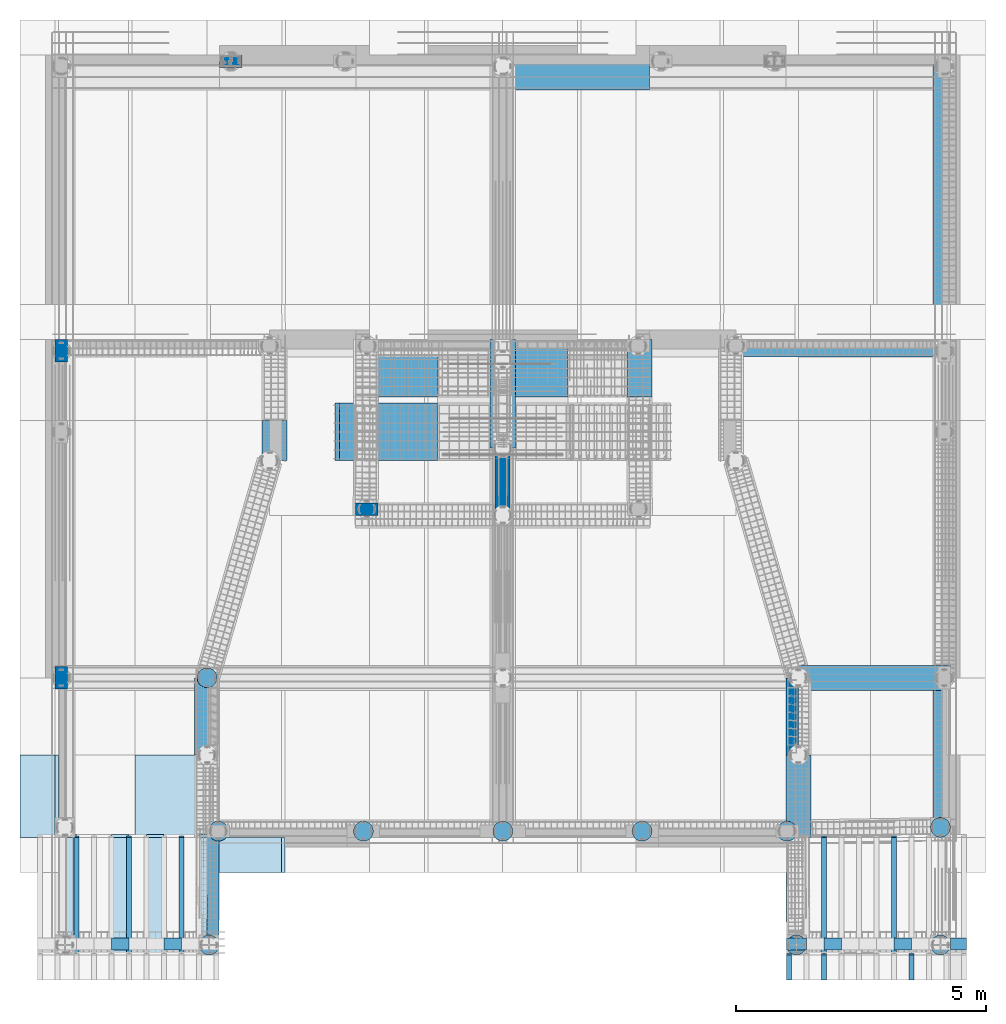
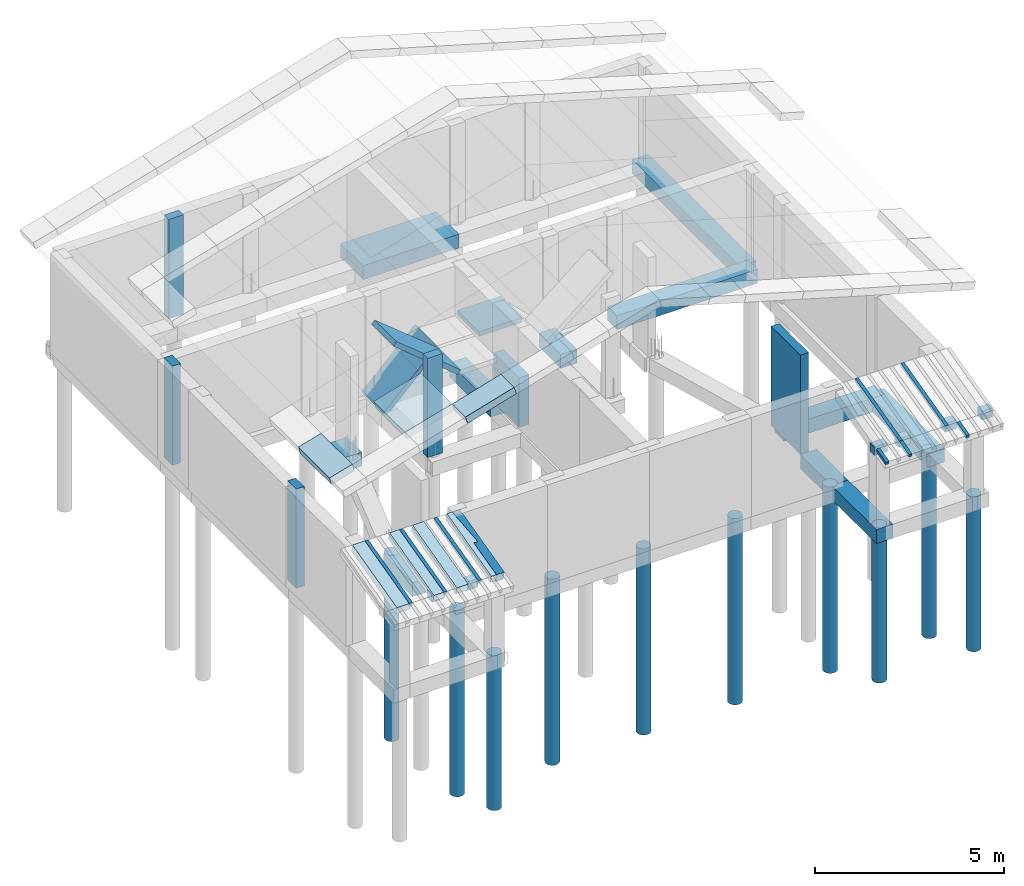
# One storey, part 1 of 13: 29 beams, 10 piles, 7 slabs, 6 columns.
"""IFC4 building model written with IfcOpenShell, lengths in metres."""

from ifc_helpers import new_model, si_unit, frame, frame_2d, origin_with_axes, origin_2d_with_axis, place, context, project, spatial, polyline, rectangle, outline, extrude, material, layer, layer_set, layer_usage, material_profile, profile_set, profile_usage, type_object, element, save


model = new_model("IFC4")

# Units and contexts
model_context = context("Model", 3, precision=1e-05, world=origin_with_axes())
ifc_project = project(units=[si_unit("LENGTHUNIT", "METRE"), si_unit("AREAUNIT", "SQUARE_METRE"), si_unit("VOLUMEUNIT", "CUBIC_METRE"), si_unit("MASSUNIT", "GRAM", prefix="KILO"), si_unit("TIMEUNIT", "SECOND"), si_unit("PLANEANGLEUNIT", "RADIAN"), si_unit("SOLIDANGLEUNIT", "STERADIAN"), si_unit("THERMODYNAMICTEMPERATUREUNIT", "DEGREE_CELSIUS")], contexts=[model_context])

# Site, building, storey
placement_1 = place(None, origin_with_axes())
site = spatial("IfcSite", under=ifc_project, at=placement_1, Name="Italia", CompositionType="ELEMENT")
building = spatial("IfcBuilding", under=site, at=placement_1, Name="Villa", CompositionType="ELEMENT")
storey = spatial("IfcBuildingStorey", under=building, at=placement_1, Name="Storey 0", CompositionType="ELEMENT", Elevation=0.0)

# Piles
placement_2 = place(placement_1, origin_with_axes())
pile_1_placement = place(placement_2, origin_with_axes())
element("IfcPile", 1, at=pile_1_placement, inside=storey, Name="1", PredefinedType="SUPPORT", context=model_context, shape_type="SweptSolid", body=[
    extrude(outline(polyline([(0.0, 0.0), (-0.0618034, 0.00978875), (-0.117557, 0.0381966), (-0.161803, 0.082443), (-0.190211, 0.138197), (-0.2, 0.2), (-0.190211, 0.261803), (-0.161803, 0.317557), (-0.117557, 0.361804), (-0.0618034, 0.390211), (0.0, 0.4), (0.0618034, 0.390211), (0.117557, 0.361804), (0.161803, 0.317557), (0.190211, 0.261803), (0.2, 0.2), (0.190211, 0.138197), (0.161803, 0.082443), (0.117557, 0.0381966), (0.0618034, 0.00978875), (0.0, 0.0)])), frame((3.42, 0.2, -5.0), z_axis=(0.0, 0.0, 1.0), x_axis=(0.0, 1.0, 0.0)), (0.0, 0.0, 1.0), 5.0),
])
pile_2_placement = place(placement_2, origin_with_axes())
element("IfcPile", 2, at=pile_2_placement, inside=storey, Name="1", PredefinedType="SUPPORT", context=model_context, shape_type="SweptSolid", body=[
    extrude(outline(polyline([(0.0, 0.0), (-0.0618033, 0.00978875), (-0.117557, 0.0381966), (-0.161803, 0.082443), (-0.190211, 0.138197), (-0.2, 0.2), (-0.190211, 0.261803), (-0.161803, 0.317557), (-0.117557, 0.361804), (-0.0618033, 0.390211), (0.0, 0.4), (0.0618033, 0.390211), (0.117557, 0.361804), (0.161803, 0.317557), (0.190211, 0.261803), (0.2, 0.2), (0.190211, 0.138197), (0.161803, 0.082443), (0.117557, 0.0381966), (0.0618033, 0.00978875), (0.0, 0.0)])), frame((3.605, 2.475, -6.0), z_axis=(0.0, 0.0, 1.0), x_axis=(0.0, 1.0, 0.0)), (0.0, 0.0, 1.0), 6.0),
])
pile_3_placement = place(placement_2, origin_with_axes())
element("IfcPile", 3, at=pile_3_placement, inside=storey, Name="1", PredefinedType="SUPPORT", context=model_context, shape_type="SweptSolid", body=[
    extrude(outline(polyline([(0.0, 0.0), (-0.0618033, 0.00978851), (-0.117557, 0.0381966), (-0.161803, 0.0824428), (-0.190211, 0.138196), (-0.2, 0.2), (-0.190211, 0.261803), (-0.161803, 0.317557), (-0.117557, 0.361803), (-0.0618033, 0.390211), (0.0, 0.4), (0.0618033, 0.390211), (0.117557, 0.361803), (0.161803, 0.317557), (0.190211, 0.261803), (0.2, 0.2), (0.190211, 0.138196), (0.161803, 0.0824428), (0.117557, 0.0381966), (0.0618033, 0.00978851), (0.0, 0.0)])), frame((6.505, 2.475, -6.0), z_axis=(0.0, 0.0, 1.0), x_axis=(0.0, 1.0, 0.0)), (0.0, 0.0, 1.0), 6.0),
])
pile_4_placement = place(placement_2, origin_with_axes())
element("IfcPile", 4, at=pile_4_placement, inside=storey, Name="1", PredefinedType="SUPPORT", context=model_context, shape_type="SweptSolid", body=[
    extrude(outline(polyline([(0.0, 0.0), (-0.0618033, 0.00978851), (-0.117557, 0.0381966), (-0.161803, 0.0824423), (-0.190211, 0.138196), (-0.2, 0.2), (-0.190211, 0.261804), (-0.161803, 0.317556), (-0.117557, 0.361803), (-0.0618033, 0.390211), (0.0, 0.4), (0.0618033, 0.390211), (0.117557, 0.361803), (0.161803, 0.317556), (0.190211, 0.261804), (0.2, 0.2), (0.190211, 0.138196), (0.161803, 0.0824423), (0.117557, 0.0381966), (0.0618033, 0.00978851), (0.0, 0.0)])), frame((9.29, 2.475, -6.0), z_axis=(0.0, 0.0, 1.0), x_axis=(0.0, 1.0, 0.0)), (0.0, 0.0, 1.0), 6.0),
])
pile_5_placement = place(placement_2, origin_with_axes())
element("IfcPile", 5, at=pile_5_placement, inside=storey, Name="1", PredefinedType="SUPPORT", context=model_context, shape_type="SweptSolid", body=[
    extrude(outline(polyline([(0.0, 0.0), (-0.0618033, 0.00978875), (-0.117557, 0.0381966), (-0.161803, 0.082443), (-0.190211, 0.138197), (-0.2, 0.2), (-0.190211, 0.261803), (-0.161803, 0.317557), (-0.117557, 0.361804), (-0.0618033, 0.390211), (0.0, 0.4), (0.0618033, 0.390211), (0.117557, 0.361804), (0.161803, 0.317557), (0.190211, 0.261803), (0.2, 0.2), (0.190211, 0.138197), (0.161803, 0.082443), (0.117557, 0.0381966), (0.0618033, 0.00978875), (0.0, 0.0)])), frame((3.38, 5.54, -6.0), z_axis=(0.0, 0.0, 1.0), x_axis=(0.0, 1.0, 0.0)), (0.0, 0.0, 1.0), 6.0),
])
pile_6_placement = place(placement_2, origin_with_axes())
element("IfcPile", 6, at=pile_6_placement, inside=storey, Name="1", PredefinedType="SUPPORT", context=model_context, shape_type="SweptSolid", body=[
    extrude(outline(polyline([(0.0, 0.0), (-0.0618033, 0.00978851), (-0.117557, 0.0381966), (-0.161803, 0.0824432), (-0.190211, 0.138197), (-0.2, 0.200001), (-0.190211, 0.261805), (-0.161803, 0.317558), (-0.117557, 0.361805), (-0.0618033, 0.390213), (0.0, 0.400002), (0.0618033, 0.390213), (0.117557, 0.361805), (0.161803, 0.317558), (0.190211, 0.261805), (0.2, 0.200001), (0.190211, 0.138197), (0.161803, 0.0824432), (0.117557, 0.0381966), (0.0618033, 0.00978851), (0.0, 0.0)])), frame((18.04, 2.55, -6.0), z_axis=(0.0, 0.0, 1.0), x_axis=(0.0, 1.0, 0.0)), (0.0, 0.0, 1.0), 6.0),
])
pile_7_placement = place(placement_2, origin_with_axes())
element("IfcPile", 7, at=pile_7_placement, inside=storey, Name="1", PredefinedType="SUPPORT", context=model_context, shape_type="SweptSolid", body=[
    extrude(outline(polyline([(0.0, 0.0), (-0.0618034, 0.00978851), (-0.117557, 0.0381966), (-0.161803, 0.0824432), (-0.190211, 0.138197), (-0.2, 0.200001), (-0.190211, 0.261805), (-0.161803, 0.317558), (-0.117557, 0.361805), (-0.0618034, 0.390213), (0.0, 0.400002), (0.0618034, 0.390213), (0.117557, 0.361805), (0.161803, 0.317558), (0.190211, 0.261805), (0.2, 0.200001), (0.190211, 0.138197), (0.161803, 0.0824432), (0.117557, 0.0381966), (0.0618034, 0.00978851), (0.0, 0.0)])), frame((18.04, 0.2, -5.0), z_axis=(0.0, 0.0, 1.0), x_axis=(0.0, 1.0, 0.0)), (0.0, 0.0, 1.0), 5.0),
])
pile_8_placement = place(placement_2, origin_with_axes())
element("IfcPile", 8, at=pile_8_placement, inside=storey, Name="1", PredefinedType="SUPPORT", context=model_context, shape_type="SweptSolid", body=[
    extrude(outline(polyline([(0.0, 0.0), (-0.0618034, 0.00978851), (-0.117557, 0.0381966), (-0.161803, 0.0824432), (-0.190211, 0.138196), (-0.2, 0.2), (-0.190211, 0.261804), (-0.161803, 0.317556), (-0.117557, 0.361803), (-0.0618034, 0.390211), (0.0, 0.4), (0.0618034, 0.390211), (0.117557, 0.361803), (0.161803, 0.317556), (0.190211, 0.261804), (0.2, 0.2), (0.190211, 0.138196), (0.161803, 0.0824423), (0.117557, 0.0381966), (0.0618034, 0.00978851), (0.0, 0.0)])), frame((15.16, 0.2, -5.0), z_axis=(0.0, 0.0, 1.0), x_axis=(0.0, 1.0, 0.0)), (0.0, 0.0, 1.0), 5.0),
])
pile_9_placement = place(placement_2, origin_with_axes())
element("IfcPile", 9, at=pile_9_placement, inside=storey, Name="1", PredefinedType="SUPPORT", context=model_context, shape_type="SweptSolid", body=[
    extrude(outline(polyline([(0.0, 0.0), (-0.0618033, 0.00978851), (-0.117557, 0.0381966), (-0.161803, 0.0824423), (-0.190211, 0.138196), (-0.2, 0.2), (-0.190211, 0.261804), (-0.161803, 0.317556), (-0.117557, 0.361803), (-0.0618033, 0.390211), (0.0, 0.4), (0.0618033, 0.390211), (0.117557, 0.361803), (0.161803, 0.317556), (0.190211, 0.261804), (0.2, 0.2), (0.190211, 0.138196), (0.161803, 0.0824423), (0.117557, 0.0381966), (0.0618033, 0.00978851), (0.0, 0.0)])), frame((14.975, 2.475, -6.0), z_axis=(0.0, 0.0, 1.0), x_axis=(0.0, 1.0, 0.0)), (0.0, 0.0, 1.0), 6.0),
])
pile_10_placement = place(placement_2, origin_with_axes())
element("IfcPile", 10, at=pile_10_placement, inside=storey, Name="1", PredefinedType="SUPPORT", context=model_context, shape_type="SweptSolid", body=[
    extrude(outline(polyline([(0.0, 0.0), (-0.0618033, 0.00978851), (-0.117557, 0.0381966), (-0.161803, 0.0824423), (-0.190211, 0.138196), (-0.2, 0.2), (-0.190211, 0.261804), (-0.161803, 0.317556), (-0.117557, 0.361803), (-0.0618033, 0.390211), (0.0, 0.4), (0.0618033, 0.390211), (0.117557, 0.361803), (0.161803, 0.317556), (0.190211, 0.261804), (0.2, 0.2), (0.190211, 0.138196), (0.161803, 0.0824423), (0.117557, 0.0381966), (0.0618033, 0.00978851), (0.0, 0.0)])), frame((12.075, 2.475, -6.0), z_axis=(0.0, 0.0, 1.0), x_axis=(0.0, 1.0, 0.0)), (0.0, 0.0, 1.0), 6.0),
])

# Columns
ifc_material_1 = material(Name="Calcestruzzo classe C28/35", Category="Calcestruzzo classe C28/35")
ifc_material_profile_1 = material_profile(ifc_material_1, rectangle(XDim=0.4, YDim=0.4, at=origin_2d_with_axis()), Name="4 PILASTRO LOGGIATO 40X40")
ifc_profile_set_1 = profile_set([ifc_material_profile_1])
ifc_profile_usage_1 = profile_usage(ifc_profile_set_1, cardinal=2)
column_type_1 = type_object("IfcColumnType", Name="2 PILASTRO 45X25", PredefinedType="COLUMN", material=ifc_profile_usage_1)
column_1_placement = place(placement_2, origin_with_axes())
element("IfcColumn", 11, at=column_1_placement, inside=storey, type_object=column_type_1, Name="14", context=model_context, shape_type="SweptSolid", body=[
    extrude(rectangle(XDim=0.25, YDim=0.45, at=frame_2d((0.0, 0.0), x_axis=(0.0, 1.0))), frame((0.265, 5.54, 0.0), z_axis=(0.0, 0.0, 1.0), x_axis=(0.0, 1.0, 0.0)), (0.0, 0.0, 1.0), 3.2),
])
ifc_profile_usage_2 = profile_usage(ifc_profile_set_1, cardinal=1)
column_type_2 = type_object("IfcColumnType", Name="1 PILASTRO 25X45", PredefinedType="COLUMN", material=ifc_profile_usage_2)
column_2_placement = place(placement_2, origin_with_axes())
element("IfcColumn", 12, at=column_2_placement, inside=storey, type_object=column_type_2, Name="17", context=model_context, shape_type="SweptSolid", body=[
    extrude(rectangle(XDim=0.25, YDim=0.45, at=origin_2d_with_axis()), frame((6.375, 8.915, 0.0), z_axis=(0.0, 0.0, 1.0), x_axis=(0.0, 1.0, 0.0)), (0.0, 0.0, 1.0), 3.2),
])
ifc_profile_usage_3 = profile_usage(ifc_profile_set_1, cardinal=3)
column_type_3 = type_object("IfcColumnType", Name="2 PILASTRO 45X25", PredefinedType="COLUMN", material=ifc_profile_usage_3)
column_3_placement = place(placement_2, origin_with_axes())
element("IfcColumn", 13, at=column_3_placement, inside=storey, type_object=column_type_3, Name="21", context=model_context, shape_type="SweptSolid", body=[
    extrude(rectangle(XDim=0.25, YDim=0.45, at=frame_2d((0.0, 0.0), x_axis=(0.0, 1.0))), frame((0.265, 12.075, 0.0), z_axis=(0.0, 0.0, 1.0), x_axis=(0.0, 1.0, 0.0)), (0.0, 0.0, 1.0), 3.2),
])
ifc_profile_usage_4 = profile_usage(ifc_profile_set_1, cardinal=3)
column_type_4 = type_object("IfcColumnType", Name="1 PILASTRO 25X45", PredefinedType="COLUMN", material=ifc_profile_usage_4)
column_4_placement = place(placement_2, origin_with_axes())
element("IfcColumn", 14, at=column_4_placement, inside=storey, type_object=column_type_4, Name="29", context=model_context, shape_type="SweptSolid", body=[
    extrude(rectangle(XDim=0.25, YDim=0.45, at=origin_2d_with_axis()), frame((3.655, 17.865, 0.0), z_axis=(0.0, 0.0, 1.0), x_axis=(0.0, 1.0, 0.0)), (0.0, 0.0, 1.0), 3.2),
])
ifc_material_2 = material(Name="Calcestruzzo classe C28/35", Category="Calcestruzzo classe C28/35")
ifc_layer_1 = layer(ifc_material_2, 0.25)
ifc_layer_set_1 = layer_set([ifc_layer_1])
ifc_layer_usage_1 = layer_usage(ifc_layer_set_1, "AXIS2", "POSITIVE", -0.25)
column_type_5 = type_object("IfcColumnType", Name="1 muro pilastro", PredefinedType="COLUMN")
column_5_placement = place(placement_2, origin_with_axes())
element("IfcColumn", 15, at=column_5_placement, inside=storey, type_object=column_type_5, material=ifc_layer_usage_1, Name="38", context=model_context, shape_type="SweptSolid", body=[
    extrude(rectangle(XDim=1.54, YDim=0.25, at=origin_2d_with_axis()), frame((14.875, 4.77, 0.0), z_axis=(0.0, 0.0, 1.0), x_axis=(0.0, 1.0, 0.0)), (0.0, 0.0, 1.0), 3.2),
])
ifc_material_3 = material(Name="Calcestruzzo classe C28/35", Category="Calcestruzzo classe C28/35")
ifc_layer_2 = layer(ifc_material_3, 0.3)
ifc_layer_set_2 = layer_set([ifc_layer_2])
ifc_layer_usage_2 = layer_usage(ifc_layer_set_2, "AXIS2", "POSITIVE", -0.3)
column_type_6 = type_object("IfcColumnType", Name="3 muro pilastro 30 centrale", PredefinedType="COLUMN")
column_6_placement = place(placement_2, origin_with_axes())
element("IfcColumn", 16, at=column_6_placement, inside=storey, type_object=column_type_6, material=ifc_layer_usage_2, Name="37", context=model_context, shape_type="SweptSolid", body=[
    extrude(rectangle(XDim=1.34, YDim=0.3, at=origin_2d_with_axis()), frame((9.09, 9.46, 0.0), z_axis=(0.0, 0.0, 1.0), x_axis=(0.0, 1.0, 0.0)), (0.0, 0.0, 1.0), 1.6),
])

# Beams
ifc_profile_usage_5 = profile_usage(ifc_profile_set_1, cardinal=2)
beam_type_1 = type_object("IfcBeamType", Name="11 TRV SUI PALI", PredefinedType="BEAM", material=ifc_profile_usage_5)
beam_1_placement = place(placement_2, origin_with_axes())
element("IfcBeam", 17, at=beam_1_placement, inside=storey, type_object=beam_type_1, Name="4005", context=model_context, shape_type="SweptSolid", body=[
    extrude(rectangle(XDim=0.45, YDim=0.5, at=frame_2d((0.0, 0.0), x_axis=(0.0, 1.0))), frame((15.0, 5.54, -0.225), z_axis=(1.0, 0.0, 0.0), x_axis=(0.0, 1.0, 0.0)), (0.0, 0.0, 1.0), 3.04),
])
ifc_profile_usage_6 = profile_usage(ifc_profile_set_1, cardinal=2)
beam_type_2 = type_object("IfcBeamType", Name="11 TRV SUI PALI", PredefinedType="BEAM", material=ifc_profile_usage_6)
beam_2_placement = place(placement_2, origin_with_axes())
element("IfcBeam", 18, at=beam_2_placement, inside=storey, type_object=beam_type_2, Name="4049", context=model_context, shape_type="SweptSolid", body=[
    extrude(rectangle(XDim=0.45, YDim=0.5, at=frame_2d((0.0, 0.0), x_axis=(0.0, 1.0))), frame((3.18, 4.0, -0.225), z_axis=(0.0, 1.0, 0.0), x_axis=(-1.0, 0.0, 0.0)), (0.0, 0.0, 1.0), 1.54),
])
ifc_profile_usage_7 = profile_usage(ifc_profile_set_1, cardinal=3)
beam_type_3 = type_object("IfcBeamType", Name="11 TRV SUI PALI", PredefinedType="BEAM", material=ifc_profile_usage_7)
beam_3_placement = place(placement_2, origin_with_axes())
element("IfcBeam", 19, at=beam_3_placement, inside=storey, type_object=beam_type_3, Name="4024", context=model_context, shape_type="SweptSolid", body=[
    extrude(rectangle(XDim=0.45, YDim=0.5, at=frame_2d((0.0, 0.0), x_axis=(0.0, 1.0))), frame((4.53, 9.88, -0.225), z_axis=(0.0, 1.0, 0.0), x_axis=(-1.0, 0.0, 0.0)), (0.0, 0.0, 1.0), 0.8),
])
ifc_profile_usage_8 = profile_usage(ifc_profile_set_1, cardinal=2)
beam_type_4 = type_object("IfcBeamType", Name="11 TRV SUI PALI", PredefinedType="BEAM", material=ifc_profile_usage_8)
beam_4_placement = place(placement_2, origin_with_axes())
element("IfcBeam", 20, at=beam_4_placement, inside=storey, type_object=beam_type_4, Name="4030", context=model_context, shape_type="SweptSolid", body=[
    extrude(rectangle(XDim=0.45, YDim=0.5, at=frame_2d((0.0, 0.0), x_axis=(0.0, 1.0))), frame((9.09, 10.13, -0.225), z_axis=(0.0, 1.0, 0.0), x_axis=(-1.0, 0.0, 0.0)), (0.0, 0.0, 1.0), 2.17),
])
ifc_material_4 = material(Name="Legname a media elasticità", Category="Legname a media elasticità")
ifc_material_profile_2 = material_profile(ifc_material_4, rectangle(XDim=0.24, YDim=0.28, at=origin_2d_with_axis()), Name="6 TRAVE LEGNO 24X28")
ifc_profile_set_2 = profile_set([ifc_material_profile_2])
ifc_profile_usage_9 = profile_usage(ifc_profile_set_2)
beam_type_5 = type_object("IfcBeamType", Name="6 TRAVE LEGNO 24X28", PredefinedType="BEAM", material=ifc_profile_usage_9)
beam_5_placement = place(placement_2, origin_with_axes())
element("IfcBeam", 21, at=beam_5_placement, inside=storey, type_object=beam_type_5, Name="1049", context=model_context, shape_type="SweptSolid", body=[
    extrude(rectangle(XDim=0.24, YDim=0.28, at=origin_2d_with_axis()), frame((3.29654, 0.0334927, 2.4672), z_axis=(-3.0963437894e-05, 0.969527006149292, 0.244984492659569), x_axis=(-1.0, -3.1936644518e-05, 0.0)), (0.0, 0.0, 1.0), 2.4255),
])
ifc_profile_usage_10 = profile_usage(ifc_profile_set_1, cardinal=1)
beam_type_6 = type_object("IfcBeamType", Name="22 Scala", PredefinedType="BEAM", material=ifc_profile_usage_10)
beam_6_placement = place(placement_2, origin_with_axes())
element("IfcBeam", 22, at=beam_6_placement, inside=storey, type_object=beam_type_6, Name="4068", context=model_context, shape_type="SweptSolid", body=[
    extrude(rectangle(XDim=0.15, YDim=1.15, at=frame_2d((0.0, 0.0), x_axis=(0.0, 1.0))), frame((10.39, 11.725, 1.525), z_axis=(-1.0, 0.0, 0.0), x_axis=(0.0, -1.0, 0.0)), (0.0, 0.0, 1.0), 1.3),
])
ifc_profile_usage_11 = profile_usage(ifc_profile_set_2, cardinal=1)
beam_type_7 = type_object("IfcBeamType", Name="9 TRAVE LEGNO 24X28 COPERTURA", PredefinedType="BEAM", material=ifc_profile_usage_11)
beam_7_placement = place(placement_2, origin_with_axes())
element("IfcBeam", 23, at=beam_7_placement, inside=storey, type_object=beam_type_7, Name="4001", context=model_context, shape_type="SweptSolid", body=[
    extrude(rectangle(XDim=0.24, YDim=0.28, at=origin_2d_with_axis()), frame((1.27, 0.22, 2.46), z_axis=(1.0, 0.0, 0.0), x_axis=(0.0, 1.0, 0.0)), (0.0, 0.0, 1.0), 0.35),
])
ifc_profile_usage_12 = profile_usage(ifc_profile_set_2, cardinal=1)
beam_type_8 = type_object("IfcBeamType", Name="9 TRAVE LEGNO 24X28 COPERTURA", PredefinedType="BEAM", material=ifc_profile_usage_12)
beam_8_placement = place(placement_2, origin_with_axes())
element("IfcBeam", 24, at=beam_8_placement, inside=storey, type_object=beam_type_8, Name="4001", context=model_context, shape_type="SweptSolid", body=[
    extrude(rectangle(XDim=0.24, YDim=0.28, at=origin_2d_with_axis()), frame((2.32, 0.22, 2.46), z_axis=(1.0, 0.0, 0.0), x_axis=(0.0, 1.0, 0.0)), (0.0, 0.0, 1.0), 0.35),
])
ifc_profile_usage_13 = profile_usage(ifc_profile_set_2, cardinal=2)
beam_type_9 = type_object("IfcBeamType", Name="8 CORRENTE 10X10", PredefinedType="BEAM", material=ifc_profile_usage_13)
beam_9_placement = place(placement_2, origin_with_axes())
element("IfcBeam", 25, at=beam_9_placement, inside=storey, type_object=beam_type_9, Name="1014", context=model_context, shape_type="SweptSolid", body=[
    extrude(rectangle(XDim=0.1, YDim=0.1, at=origin_2d_with_axis()), frame((0.57, 0.0123692, 2.55155), z_axis=(0.0, 0.968917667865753, 0.247383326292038), x_axis=(-1.0, 0.0, 0.0)), (0.0, 0.0, 1.0), 2.42539),
])
ifc_profile_usage_14 = profile_usage(ifc_profile_set_2, cardinal=2)
beam_type_10 = type_object("IfcBeamType", Name="8 CORRENTE 10X10", PredefinedType="BEAM", material=ifc_profile_usage_14)
beam_10_placement = place(placement_2, origin_with_axes())
element("IfcBeam", 26, at=beam_10_placement, inside=storey, type_object=beam_type_10, Name="1017", context=model_context, shape_type="SweptSolid", body=[
    extrude(rectangle(XDim=0.1, YDim=0.1, at=origin_2d_with_axis()), frame((1.62, 0.0123692, 2.55155), z_axis=(0.0, 0.968917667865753, 0.247383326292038), x_axis=(-1.0, 0.0, 0.0)), (0.0, 0.0, 1.0), 2.42539),
])
ifc_profile_usage_15 = profile_usage(ifc_profile_set_2, cardinal=2)
beam_type_11 = type_object("IfcBeamType", Name="8 CORRENTE 10X10", PredefinedType="BEAM", material=ifc_profile_usage_15)
beam_11_placement = place(placement_2, origin_with_axes())
element("IfcBeam", 27, at=beam_11_placement, inside=storey, type_object=beam_type_11, Name="1021", context=model_context, shape_type="SweptSolid", body=[
    extrude(rectangle(XDim=0.1, YDim=0.1, at=origin_2d_with_axis()), frame((2.67, 0.0123692, 2.55155), z_axis=(0.0, 0.968917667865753, 0.247383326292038), x_axis=(-1.0, 0.0, 0.0)), (0.0, 0.0, 1.0), 2.42539),
])
ifc_profile_usage_16 = profile_usage(ifc_profile_set_2, cardinal=3)
beam_type_12 = type_object("IfcBeamType", Name="9 TRAVE LEGNO 24X28 COPERTURA", PredefinedType="BEAM", material=ifc_profile_usage_16)
beam_12_placement = place(placement_2, origin_with_axes())
element("IfcBeam", 28, at=beam_12_placement, inside=storey, type_object=beam_type_12, Name="4175", context=model_context, shape_type="SweptSolid", body=[
    extrude(rectangle(XDim=0.24, YDim=0.28, at=origin_2d_with_axis()), frame((17.26, 0.22, 2.46), z_axis=(-1.0, 0.0, 0.0), x_axis=(0.0, -1.0, 0.0)), (0.0, 0.0, 1.0), 0.35),
])
ifc_profile_usage_17 = profile_usage(ifc_profile_set_2, cardinal=3)
beam_type_13 = type_object("IfcBeamType", Name="9 TRAVE LEGNO 24X28 COPERTURA", PredefinedType="BEAM", material=ifc_profile_usage_17)
beam_13_placement = place(placement_2, origin_with_axes())
element("IfcBeam", 29, at=beam_13_placement, inside=storey, type_object=beam_type_13, Name="4175", context=model_context, shape_type="SweptSolid", body=[
    extrude(rectangle(XDim=0.24, YDim=0.28, at=origin_2d_with_axis()), frame((15.86, 0.22, 2.46), z_axis=(-1.0, 0.0, 0.0), x_axis=(0.0, -1.0, 0.0)), (0.0, 0.0, 1.0), 0.349999),
])
ifc_profile_usage_18 = profile_usage(ifc_profile_set_2, cardinal=3)
beam_type_14 = type_object("IfcBeamType", Name="9 TRAVE LEGNO 24X28 COPERTURA", PredefinedType="BEAM", material=ifc_profile_usage_18)
beam_14_placement = place(placement_2, origin_with_axes())
element("IfcBeam", 30, at=beam_14_placement, inside=storey, type_object=beam_type_14, Name="4175", context=model_context, shape_type="SweptSolid", body=[
    extrude(rectangle(XDim=0.24, YDim=0.28, at=origin_2d_with_axis()), frame((15.16, 0.22, 2.46), z_axis=(-1.0, 0.0, 0.0), x_axis=(0.0, -1.0, 0.0)), (0.0, 0.0, 1.0), 0.400001),
])
ifc_profile_usage_19 = profile_usage(ifc_profile_set_2, cardinal=2)
beam_type_15 = type_object("IfcBeamType", Name="8 CORRENTE 10X10", PredefinedType="BEAM", material=ifc_profile_usage_19)
beam_15_placement = place(placement_2, origin_with_axes())
element("IfcBeam", 31, at=beam_15_placement, inside=storey, type_object=beam_type_15, Name="1044", context=model_context, shape_type="SweptSolid", body=[
    extrude(rectangle(XDim=0.1, YDim=0.1, at=origin_2d_with_axis()), frame((16.91, 0.0123692, 2.55155), z_axis=(0.0, 0.968917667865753, 0.247383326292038), x_axis=(-1.0, 0.0, 0.0)), (0.0, 0.0, 1.0), 2.42539),
])
ifc_profile_usage_20 = profile_usage(ifc_profile_set_2, cardinal=2)
beam_type_16 = type_object("IfcBeamType", Name="8 CORRENTE 10X10", PredefinedType="BEAM", material=ifc_profile_usage_20)
beam_16_placement = place(placement_2, origin_with_axes())
element("IfcBeam", 32, at=beam_16_placement, inside=storey, type_object=beam_type_16, Name="1039", context=model_context, shape_type="SweptSolid", body=[
    extrude(rectangle(XDim=0.1, YDim=0.1, at=origin_2d_with_axis()), frame((15.51, 0.0123692, 2.55155), z_axis=(0.0, 0.968917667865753, 0.247383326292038), x_axis=(-1.0, 0.0, 0.0)), (0.0, 0.0, 1.0), 2.42539),
])
ifc_profile_usage_21 = profile_usage(ifc_profile_set_2, cardinal=2)
beam_type_17 = type_object("IfcBeamType", Name="8 CORRENTE 10X10", PredefinedType="BEAM", material=ifc_profile_usage_21)
beam_17_placement = place(placement_2, origin_with_axes())
element("IfcBeam", 33, at=beam_17_placement, inside=storey, type_object=beam_type_17, Name="1039", context=model_context, shape_type="SweptSolid", body=[
    extrude(rectangle(XDim=0.1, YDim=0.1, at=origin_2d_with_axis()), frame((15.51, -0.487418, 2.42161), z_axis=(0.0, 0.967822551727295, 0.251633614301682), x_axis=(-1.0, 0.0, 0.0)), (0.0, 0.0, 1.0), 0.516624),
])
ifc_profile_usage_22 = profile_usage(ifc_profile_set_2, cardinal=2)
beam_type_18 = type_object("IfcBeamType", Name="8 CORRENTE 10X10", PredefinedType="BEAM", material=ifc_profile_usage_22)
beam_18_placement = place(placement_2, origin_with_axes())
element("IfcBeam", 34, at=beam_18_placement, inside=storey, type_object=beam_type_18, Name="1045", context=model_context, shape_type="SweptSolid", body=[
    extrude(rectangle(XDim=0.1, YDim=0.1, at=origin_2d_with_axis()), frame((17.26, -0.487418, 2.42161), z_axis=(0.0, 0.967822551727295, 0.251633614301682), x_axis=(-1.0, 0.0, 0.0)), (0.0, 0.0, 1.0), 0.516624),
])
ifc_profile_usage_23 = profile_usage(ifc_profile_set_2, cardinal=3)
beam_type_19 = type_object("IfcBeamType", Name="8 CORRENTE 10X10", PredefinedType="BEAM", material=ifc_profile_usage_23)
beam_19_placement = place(placement_2, origin_with_axes())
element("IfcBeam", 35, at=beam_19_placement, inside=storey, type_object=beam_type_19, Name="1050", context=model_context, shape_type="SweptSolid", body=[
    extrude(rectangle(XDim=0.1, YDim=0.1, at=origin_2d_with_axis()), frame((14.81, -0.487418, 2.42161), z_axis=(0.0, 0.967822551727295, 0.251633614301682), x_axis=(-1.0, 0.0, 0.0)), (0.0, 0.0, 1.0), 0.516624),
])
ifc_profile_usage_24 = profile_usage(ifc_profile_set_2, cardinal=3)
beam_type_20 = type_object("IfcBeamType", Name="9 TRAVE LEGNO 24X28 COPERTURA", PredefinedType="BEAM", material=ifc_profile_usage_24)
beam_20_placement = place(placement_2, origin_with_axes())
element("IfcBeam", 36, at=beam_20_placement, inside=storey, type_object=beam_type_20, Name="4175", context=model_context, shape_type="SweptSolid", body=[
    extrude(rectangle(XDim=0.24, YDim=0.28, at=origin_2d_with_axis()), frame((18.36, 0.22, 2.46), z_axis=(-1.0, 0.0, 0.0), x_axis=(0.0, -1.0, 0.0)), (0.0, 0.0, 1.0), 0.319998),
])
ifc_profile_usage_25 = profile_usage(ifc_profile_set_1, cardinal=1)
beam_type_21 = type_object("IfcBeamType", Name="11 TRV SUI PALI", PredefinedType="BEAM", material=ifc_profile_usage_25)
beam_21_placement = place(placement_2, origin_with_axes())
element("IfcBeam", 37, at=beam_21_placement, inside=storey, type_object=beam_type_21, Name="4047", context=model_context, shape_type="SweptSolid", body=[
    extrude(rectangle(XDim=0.45, YDim=0.5, at=frame_2d((0.0, 0.0), x_axis=(0.0, 1.0))), frame((17.94, 2.35, -0.225), z_axis=(0.0, 1.0, 0.0), x_axis=(-1.0, 0.0, 0.0)), (0.0, 0.0, 1.0), 3.19),
])
ifc_profile_usage_26 = profile_usage(ifc_profile_set_1, cardinal=1)
beam_type_22 = type_object("IfcBeamType", Name="11 TRV SUI PALI", PredefinedType="BEAM", material=ifc_profile_usage_26)
beam_22_placement = place(placement_2, origin_with_axes())
element("IfcBeam", 38, at=beam_22_placement, inside=storey, type_object=beam_type_22, Name="4047", context=model_context, shape_type="SweptSolid", body=[
    extrude(rectangle(XDim=0.45, YDim=0.5, at=frame_2d((0.0, 0.0), x_axis=(0.0, 1.0))), frame((17.94, 12.3, -0.225), z_axis=(0.0, 1.0, 0.0), x_axis=(-1.0, 0.0, 0.0)), (0.0, 0.0, 1.0), 5.69),
])
ifc_profile_usage_27 = profile_usage(ifc_profile_set_1, cardinal=2)
beam_type_23 = type_object("IfcBeamType", Name="21 TRV winkler SUI PALI", PredefinedType="BEAM", material=ifc_profile_usage_27)
beam_23_placement = place(placement_2, origin_with_axes())
element("IfcBeam", 39, at=beam_23_placement, inside=storey, type_object=beam_type_23, Name="4011", context=model_context, shape_type="SweptSolid", body=[
    extrude(rectangle(XDim=0.45, YDim=1.2, at=frame_2d((0.0, 0.0), x_axis=(0.0, 1.0))), frame((9.09, 17.89, -0.225), z_axis=(1.0, 0.0, 0.0), x_axis=(0.0, 1.0, 0.0)), (0.0, 0.0, 1.0), 2.93),
])
ifc_profile_usage_28 = profile_usage(ifc_profile_set_1)
beam_type_24 = type_object("IfcBeamType", Name="11 TRV SUI PALI", PredefinedType="BEAM", material=ifc_profile_usage_28)
beam_24_placement = place(placement_2, origin_with_axes())
element("IfcBeam", 40, at=beam_24_placement, inside=storey, type_object=beam_type_24, Name="4050", context=model_context, shape_type="SweptSolid", body=[
    extrude(rectangle(XDim=0.45, YDim=0.5, at=frame_2d((0.0, 0.0), x_axis=(0.0, 1.0))), frame((15.01, 0.000916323, -0.225), z_axis=(-0.004256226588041, 0.999990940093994, 0.0), x_axis=(-0.999990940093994, -0.004256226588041, 0.0)), (0.0, 0.0, 1.0), 2.3491),
])
ifc_profile_usage_29 = profile_usage(ifc_profile_set_1, cardinal=2)
beam_type_25 = type_object("IfcBeamType", Name="11 TRV SUI PALI", PredefinedType="BEAM", material=ifc_profile_usage_29)
beam_25_placement = place(placement_2, origin_with_axes())
element("IfcBeam", 41, at=beam_25_placement, inside=storey, type_object=beam_type_25, Name="4050", context=model_context, shape_type="SweptSolid", body=[
    extrude(rectangle(XDim=0.45, YDim=0.5, at=frame_2d((0.0, 0.0), x_axis=(0.0, 1.0))), frame((15.0, 2.35, -0.225), z_axis=(0.0, 1.0, 0.0), x_axis=(-1.0, 0.0, 0.0)), (0.0, 0.0, 1.0), 1.65),
])
ifc_profile_usage_30 = profile_usage(ifc_profile_set_1, cardinal=2)
beam_type_26 = type_object("IfcBeamType", Name="11 TRV SUI PALI", PredefinedType="BEAM", material=ifc_profile_usage_30)
beam_26_placement = place(placement_2, origin_with_axes())
element("IfcBeam", 42, at=beam_26_placement, inside=storey, type_object=beam_type_26, Name="4010", context=model_context, shape_type="SweptSolid", body=[
    extrude(rectangle(XDim=0.45, YDim=0.5, at=frame_2d((0.0, 0.0), x_axis=(0.0, 1.0))), frame((13.75, 12.2, -0.225), z_axis=(1.0, 0.0, 0.0), x_axis=(0.0, 1.0, 0.0)), (0.0, 0.0, 1.0), 4.29),
])
ifc_profile_usage_31 = profile_usage(ifc_profile_set_1, cardinal=2)
beam_type_27 = type_object("IfcBeamType", Name="11 TRV SUI PALI", PredefinedType="BEAM", material=ifc_profile_usage_31)
beam_27_placement = place(placement_2, origin_with_axes())
element("IfcBeam", 43, at=beam_27_placement, inside=storey, type_object=beam_type_27, Name="4055", context=model_context, shape_type="SweptSolid", body=[
    extrude(rectangle(XDim=0.45, YDim=0.5, at=frame_2d((0.0, 0.0), x_axis=(0.0, 1.0))), frame((11.82, 11.15, -0.225), z_axis=(0.0, 1.0, 0.0), x_axis=(-1.0, 0.0, 0.0)), (0.0, 0.0, 1.0), 1.15),
])
ifc_profile_usage_32 = profile_usage(ifc_profile_set_1, cardinal=3)
beam_type_28 = type_object("IfcBeamType", Name="22 Scala", PredefinedType="BEAM", material=ifc_profile_usage_32)
beam_28_placement = place(placement_2, origin_with_axes())
element("IfcBeam", 44, at=beam_28_placement, inside=storey, type_object=beam_type_28, Name="4068", context=model_context, shape_type="SweptSolid", body=[
    extrude(rectangle(XDim=0.15, YDim=1.15, at=frame_2d((0.0, 0.0), x_axis=(0.0, 1.0))), frame((6.21254, 11.725, -0.0535233), z_axis=(0.713643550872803, 0.0, 0.700508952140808), x_axis=(0.0, 1.0, 0.0)), (0.0, 0.0, 1.0), 2.28405),
])
ifc_profile_usage_33 = profile_usage(ifc_profile_set_1, cardinal=1)
beam_type_29 = type_object("IfcBeamType", Name="22 Scala", PredefinedType="BEAM", material=ifc_profile_usage_33)
beam_29_placement = place(placement_2, origin_with_axes())
element("IfcBeam", 45, at=beam_29_placement, inside=storey, type_object=beam_type_29, Name="1009", context=model_context, shape_type="SweptSolid", body=[
    extrude(rectangle(XDim=0.15, YDim=1.15, at=frame_2d((0.0, 0.0), x_axis=(0.0, 1.0))), frame((7.74257, 10.455, 1.5419), z_axis=(-0.774661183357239, 0.0, 0.632376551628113), x_axis=(0.0, -1.0, 0.0)), (0.0, 0.0, 1.0), 2.53014),
])

# Slabs
ifc_material_5 = material(Name="Concrete", Category="Concrete")
slab_type_1 = type_object("IfcSlabType", Name="1 COP DEL LOGGIATO IN LEGNO E MEZZANE", PredefinedType="FLOOR", material=ifc_material_5)
slab_1_placement = place(placement_2, origin_with_axes())
element("IfcSlab", 46, at=slab_1_placement, inside=storey, type_object=slab_type_1, Name="122", context=model_context, shape_type="SweptSolid", body=[
    extrude(outline(polyline([(0.0, 0.0), (-0.35, 0.0), (-0.35, 2.42539), (0.0, 2.42539), (0.0, 0.0)])), frame((1.27, 0.0, 2.6), z_axis=(0.0, 0.247383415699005, -0.968917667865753), x_axis=(-1.0, 0.0, 0.0)), (0.0, 0.0, 1.0), 0.24),
])
ifc_material_6 = material(Name="Concrete", Category="Concrete")
slab_type_2 = type_object("IfcSlabType", Name="1 COP DEL LOGGIATO IN LEGNO E MEZZANE", PredefinedType="FLOOR", material=ifc_material_6)
slab_2_placement = place(placement_2, origin_with_axes())
element("IfcSlab", 47, at=slab_2_placement, inside=storey, type_object=slab_type_2, Name="126", context=model_context, shape_type="SweptSolid", body=[
    extrude(outline(polyline([(0.0, 0.0), (-0.43, 0.0), (-0.43, 2.42539), (0.0, 2.42539), (0.0, 0.0)])), frame((0.14, 0.0, 2.6), z_axis=(0.0, 0.247383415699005, -0.968917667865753), x_axis=(-1.0, 0.0, 0.0)), (0.0, 0.0, 1.0), 0.24),
])
ifc_material_7 = material(Name="Concrete", Category="Concrete")
slab_type_3 = type_object("IfcSlabType", Name="1 COP DEL LOGGIATO IN LEGNO E MEZZANE", PredefinedType="FLOOR", material=ifc_material_7)
slab_3_placement = place(placement_2, origin_with_axes())
element("IfcSlab", 48, at=slab_3_placement, inside=storey, type_object=slab_type_3, Name="129", context=model_context, shape_type="SweptSolid", body=[
    extrude(outline(polyline([(0.0, 0.0), (-0.35, 0.0), (-0.35, 2.42539), (0.0, 2.42539), (0.0, 0.0)])), frame((1.97, 0.0, 2.6), z_axis=(0.0, 0.247383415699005, -0.968917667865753), x_axis=(-1.0, 0.0, 0.0)), (0.0, 0.0, 1.0), 0.24),
])
ifc_material_8 = material(Name="Concrete", Category="Concrete")
slab_type_4 = type_object("IfcSlabType", Name="1 COP DEL LOGGIATO IN LEGNO E MEZZANE", PredefinedType="FLOOR", material=ifc_material_8)
slab_4_placement = place(placement_2, origin_with_axes())
element("IfcSlab", 49, at=slab_4_placement, inside=storey, type_object=slab_type_4, Name="132", context=model_context, shape_type="SweptSolid", body=[
    extrude(outline(polyline([(0.0, 0.0), (-0.4, 0.0), (-0.16, 2.42539), (0.0, 2.42539), (0.0, 0.0)])), frame((3.02, 0.0, 2.6), z_axis=(0.0, 0.247383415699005, -0.968917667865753), x_axis=(-1.0, 0.0, 0.0)), (0.0, 0.0, 1.0), 0.24),
])
ifc_material_9 = material(Name="Concrete", Category="Concrete")
slab_type_5 = type_object("IfcSlabType", Name="3 COPERTURA DEL fabbricato perline", PredefinedType="FLOOR", material=ifc_material_9)
slab_5_placement = place(placement_2, origin_with_axes())
element("IfcSlab", 50, at=slab_5_placement, inside=storey, type_object=slab_type_5, Name="223", context=model_context, shape_type="SweptSolid", body=[
    extrude(outline(polyline([(0.0, 0.0), (0.0, 1.49723), (1.65, 1.49723), (1.65, 0.0), (0.0, 0.0)])), frame((1.74, 2.35, 6.27), z_axis=(0.273838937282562, 0.0, -0.961775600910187), x_axis=(0.0, 1.0, 0.0)), (0.0, 0.0, 1.0), 0.24),
])
ifc_material_10 = material(Name="Concrete", Category="Concrete")
slab_type_6 = type_object("IfcSlabType", Name="1 COP DEL LOGGIATO IN LEGNO E MEZZANE", PredefinedType="FLOOR", material=ifc_material_10)
slab_6_placement = place(placement_2, origin_with_axes())
element("IfcSlab", 51, at=slab_6_placement, inside=storey, type_object=slab_type_6, Name="244", context=model_context, shape_type="SweptSolid", body=[
    extrude(outline(polyline([(0.0, 0.0), (-1.65, 0.0), (-1.65, -0.728011), (0.0, -0.728011), (0.0, 0.0)])), frame((0.14, 4.0, 5.8), z_axis=(0.27472135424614, 0.0, -0.9615238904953), x_axis=(0.0, 1.0, 0.0)), (0.0, 0.0, 1.0), 0.24),
])
ifc_material_11 = material(Name="Concrete", Category="Concrete")
slab_type_7 = type_object("IfcSlabType", Name="1 COP DEL LOGGIATO IN LEGNO E MEZZANE", PredefinedType="FLOOR", material=ifc_material_11)
slab_7_placement = place(placement_2, origin_with_axes())
element("IfcSlab", 52, at=slab_7_placement, inside=storey, type_object=slab_type_7, Name="248", context=model_context, shape_type="SweptSolid", body=[
    extrude(outline(polyline([(0.0, 0.0), (-0.7, 0.0), (-0.7, -1.55361), (0.0, -1.55361), (0.0, 0.0)])), frame((4.67, 2.35, 7.12), z_axis=(0.283211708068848, 0.0, -0.959057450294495), x_axis=(0.0, 1.0, 0.0)), (0.0, 0.0, 1.0), 0.24),
])

save(model, "model.ifc")
